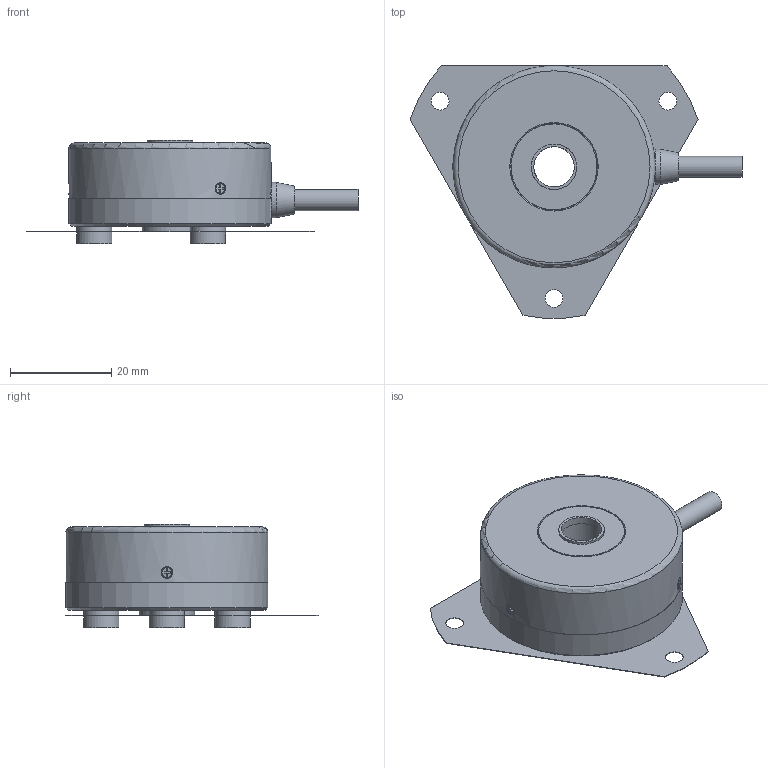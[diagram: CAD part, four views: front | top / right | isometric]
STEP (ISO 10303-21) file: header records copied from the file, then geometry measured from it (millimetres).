
FILE_DESCRIPTION(('STEP AP214'),'1');
FILE_NAME('.stp','2022-02-02T07:53:56',(' '),(' '),'Spatial InterOp 3D',' ',' ');
FILE_SCHEMA(('AUTOMOTIVE_DESIGN { 1 0 10303 214 1 1 1 1 }'));
Length unit declared in the file: millimetre
Products named in the file (12): L15F05A MEH-28-3240P#E; 017430 20・30 フランジ用ザガネA; スプリングフランジ MEH28; 017440 20・30 フランジ用ザガネB; サラコネジ M3x6 フランジ; 029859 16芯ケーブル(4.2)MA-20P; φ4.2; MA20 ブッシュ; シール9X17(607RU); 018211 サラコネジ M1.4X2.5
Assembly tree (19 placements, depth 3):
  L15F05A MEH-28-3240P#E
    L15F05A MEH-28-3240P#E
    017430 20・30 フランジ用ザガネA  x3
    スプリングフランジ MEH28
    017440 20・30 フランジ用ザガネB  x3
    サラコネジ M3x6 フランジ  x3
    L15F05A MEH-28-3240P#E
    029859 16芯ケーブル(4.2)MA-20P
      φ4.2
      MA20 ブッシュ
    シール9X17(607RU)
    018211 サラコネジ M1.4X2.5  x3
Bounding box: 65.7 x 49.93 x 20.4 mm (x, y, z)
Volume: 21037.9 mm3; surface area: 13004.5 mm2
Topology: 18 solids, 18 shells, 231 faces, 507 edges, 327 vertices
Faces by surface type: plane 139, cylinder 75, cone 14, torus 2, bspline 1
Full cylindrical faces by diameter (mm): 1.4 x3, 2 x3, 2.3 x3, 2.5 x6, 3 x3, 3.5 x12, 4.2 x2, 6 x3, 6.2 x3, 7 x7, 8 x2, 9 x2, 9.9 x1, 10 x2, 11 x1, 17 x1, 17.5 x1, 39 x1, 40 x2
Entity records: 5937 total; most frequent: CARTESIAN_POINT 1006, DIRECTION 647, ORIENTED_EDGE 486, AXIS2_PLACEMENT_3D 261, EDGE_CURVE 243, EDGE_LOOP 232, VERTEX_POINT 185, FACE_OUTER_BOUND 182
